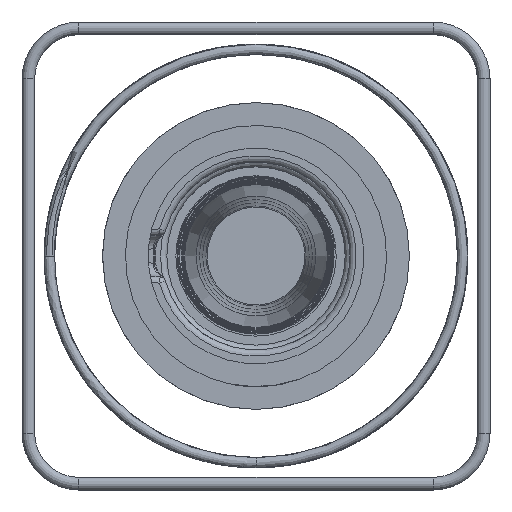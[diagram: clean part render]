
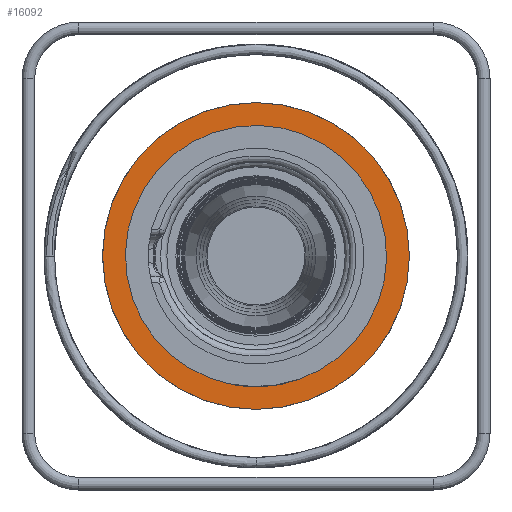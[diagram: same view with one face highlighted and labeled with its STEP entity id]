
A CAD part, left-side view. The second image highlights one B-rep face of the part: STEP entity #16092.
In plain terms, the highlighted planar face has unit normal (-1, 0, 0).
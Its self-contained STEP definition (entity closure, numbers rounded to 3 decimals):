
#464=FACE_BOUND('',#5437,.T.);
#1526=PLANE('',#17046);
#4473=FACE_OUTER_BOUND('',#5436,.T.);
#5436=EDGE_LOOP('',(#14161));
#5437=EDGE_LOOP('',(#14162));
#5892=CIRCLE('',#17013,206.5);
#5898=CIRCLE('',#17047,242.5);
#7502=VERTEX_POINT('',#38022);
#7512=VERTEX_POINT('',#38131);
#9753=EDGE_CURVE('',#7502,#7502,#5892,.T.);
#9765=EDGE_CURVE('',#7512,#7512,#5898,.T.);
#14161=ORIENTED_EDGE('',*,*,#9765,.T.);
#14162=ORIENTED_EDGE('',*,*,#9753,.T.);
#16092=ADVANCED_FACE('',(#4473,#464),#1526,.T.);
#17013=AXIS2_PLACEMENT_3D('',#38024,#19851,#19852);
#17046=AXIS2_PLACEMENT_3D('',#38130,#19919,#19920);
#17047=AXIS2_PLACEMENT_3D('',#38132,#19921,#19922);
#19851=DIRECTION('center_axis',(1.,0.,0.));
#19852=DIRECTION('ref_axis',(0.,-0.988,0.157));
#19919=DIRECTION('center_axis',(-1.,0.,0.));
#19920=DIRECTION('ref_axis',(0.,0.,
1.));
#19921=DIRECTION('center_axis',(-1.,0.,0.));
#19922=DIRECTION('ref_axis',(0.,-1.,0.));
#38022=CARTESIAN_POINT('',(-340.,203.954,-32.327));
#38024=CARTESIAN_POINT('Origin',(-340.,0.,0.));
#38130=CARTESIAN_POINT('Origin',(-340.,-188.5,0.));
#38131=CARTESIAN_POINT('',(-340.,242.5,0.));
#38132=CARTESIAN_POINT('Origin',(-340.,0.,0.));
